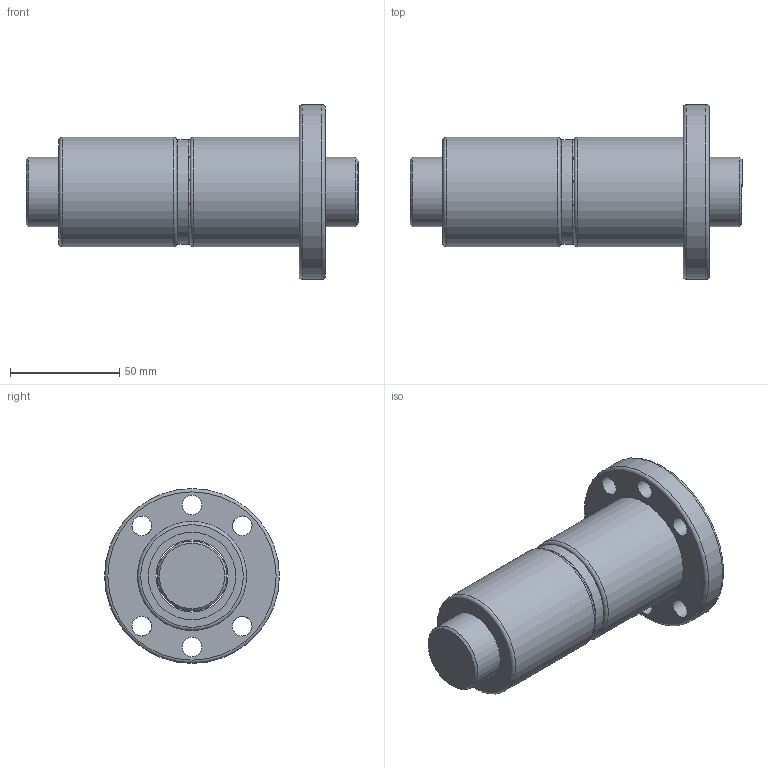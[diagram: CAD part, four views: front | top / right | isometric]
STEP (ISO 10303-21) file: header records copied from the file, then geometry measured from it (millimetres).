
FILE_DESCRIPTION(/* description */ (''),/* implementation_level */ '2;1');
FILE_NAME(/* name */ 'DFU3208',/* time_stamp */ '2007-10-26T10:57:35+08:00',/* author */ (''),/* organization */ (''),/* preprocessor_version */ 'ST-DEVELOPER v9',/* originating_system */ 'EDS PLM SOLUTIONS - UNIGRAPHICS NX 1.0',/* authorisation */ '');
FILE_SCHEMA (('CONFIG_CONTROL_DESIGN'));
Length unit declared in the file: millimetre
Products named in the file (1): FANNDA0400cx
Bounding box: 152 x 80 x 80 mm (x, y, z)
Volume: 285710.5 mm3; surface area: 65159.3 mm2
Topology: 5 solids, 5 shells, 40 faces, 77 edges, 50 vertices
Faces by surface type: cylinder 18, plane 13, torus 7, cone 2
Full cylindrical faces by diameter (mm): 9 x6, 32 x1, 33 x4, 40 x3, 48 x1, 50 x2, 80 x1
Entity records: 972 total; most frequent: DIRECTION 172, CARTESIAN_POINT 131, EDGE_LOOP 90, ORIENTED_EDGE 90, AXIS2_PLACEMENT_3D 86, FACE_BOUND 75, VERTEX_POINT 45, EDGE_CURVE 45
